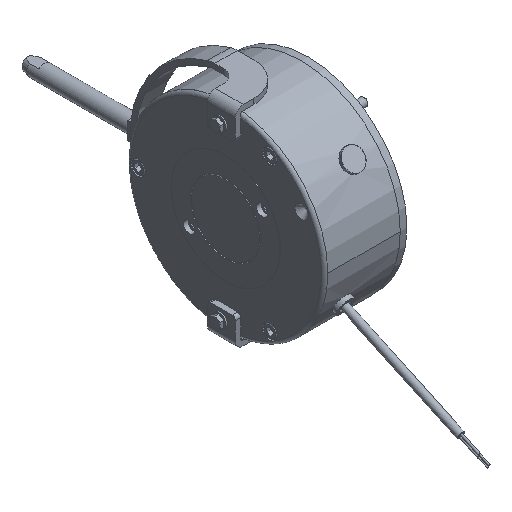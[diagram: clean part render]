
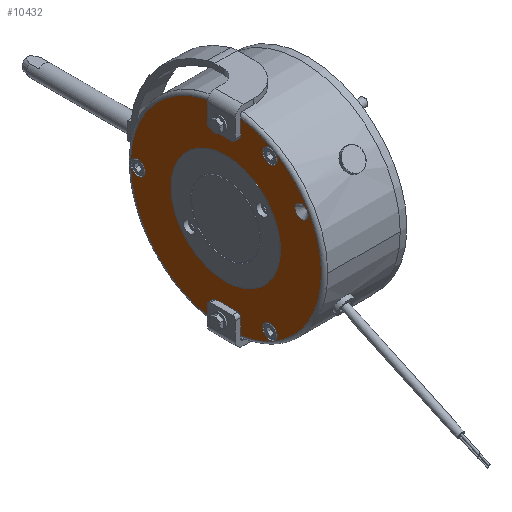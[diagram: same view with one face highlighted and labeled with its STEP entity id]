
A CAD part, isometric view. The second image highlights one B-rep face of the part: STEP entity #10432.
In plain terms, the highlighted planar face has unit normal (-1, 0, 0).
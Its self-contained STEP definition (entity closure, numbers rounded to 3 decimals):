
#731=FACE_BOUND('',#2438,.T.);
#732=FACE_BOUND('',#2439,.T.);
#733=FACE_BOUND('',#2440,.T.);
#734=FACE_BOUND('',#2441,.T.);
#735=FACE_BOUND('',#2442,.T.);
#1205=CIRCLE('',#11431,41.);
#1206=CIRCLE('',#11432,41.);
#1210=CIRCLE('',#11438,5.5);
#1211=CIRCLE('',#11439,5.5);
#1215=CIRCLE('',#11446,5.5);
#1216=CIRCLE('',#11447,5.5);
#1220=CIRCLE('',#11454,5.5);
#1221=CIRCLE('',#11455,5.5);
#1228=CIRCLE('',#11465,71.501);
#1230=CIRCLE('',#11467,71.501);
#1262=CIRCLE('',#11513,5.);
#1263=CIRCLE('',#11514,5.);
#1269=CIRCLE('',#11525,2.5);
#1270=CIRCLE('',#11526,2.5);
#1271=CIRCLE('',#11527,2.5);
#1272=CIRCLE('',#11528,2.5);
#1827=FACE_OUTER_BOUND('',#2437,.T.);
#2437=EDGE_LOOP('',(#8699,#8700,#8701,#8702,#8703,#8704,#8705,#8706,#8707,
#8708,#8709,#8710));
#2438=EDGE_LOOP('',(#8711,#8712));
#2439=EDGE_LOOP('',(#8713,#8714));
#2440=EDGE_LOOP('',(#8715,#8716));
#2441=EDGE_LOOP('',(#8717,#8718));
#2442=EDGE_LOOP('',(#8719,#8720));
#3010=LINE('',#18668,#3564);
#3011=LINE('',#18670,#3565);
#3012=LINE('',#18674,#3566);
#3013=LINE('',#18677,#3567);
#3014=LINE('',#18679,#3568);
#3015=LINE('',#18683,#3569);
#3564=VECTOR('',#14109,10.);
#3565=VECTOR('',#14110,10.);
#3566=VECTOR('',#14113,10.);
#3567=VECTOR('',#14116,10.);
#3568=VECTOR('',#14117,10.);
#3569=VECTOR('',#14120,10.);
#4542=VERTEX_POINT('',#18415);
#4543=VERTEX_POINT('',#18416);
#4547=VERTEX_POINT('',#18429);
#4548=VERTEX_POINT('',#18430);
#4552=VERTEX_POINT('',#18444);
#4553=VERTEX_POINT('',#18445);
#4557=VERTEX_POINT('',#18459);
#4558=VERTEX_POINT('',#18460);
#4562=VERTEX_POINT('',#18494);
#4563=VERTEX_POINT('',#18496);
#4564=VERTEX_POINT('',#18498);
#4565=VERTEX_POINT('',#18500);
#4602=VERTEX_POINT('',#18642);
#4603=VERTEX_POINT('',#18643);
#4610=VERTEX_POINT('',#18667);
#4611=VERTEX_POINT('',#18669);
#4612=VERTEX_POINT('',#18671);
#4613=VERTEX_POINT('',#18673);
#4614=VERTEX_POINT('',#18675);
#4615=VERTEX_POINT('',#18678);
#4616=VERTEX_POINT('',#18680);
#4617=VERTEX_POINT('',#18682);
#5923=EDGE_CURVE('',#4542,#4543,#1205,.T.);
#5924=EDGE_CURVE('',#4543,#4542,#1206,.T.);
#5930=EDGE_CURVE('',#4547,#4548,#1210,.T.);
#5931=EDGE_CURVE('',#4548,#4547,#1211,.T.);
#5937=EDGE_CURVE('',#4552,#4553,#1215,.T.);
#5938=EDGE_CURVE('',#4553,#4552,#1216,.T.);
#5944=EDGE_CURVE('',#4557,#4558,#1220,.T.);
#5945=EDGE_CURVE('',#4558,#4557,#1221,.T.);
#5954=EDGE_CURVE('',#4562,#4563,#1228,.T.);
#5956=EDGE_CURVE('',#4564,#4565,#1230,.T.);
#6005=EDGE_CURVE('',#4602,#4603,#1262,.T.);
#6006=EDGE_CURVE('',#4603,#4602,#1263,.T.);
#6017=EDGE_CURVE('',#4610,#4565,#3010,.T.);
#6018=EDGE_CURVE('',#4564,#4611,#3011,.T.);
#6019=EDGE_CURVE('',#4611,#4612,#1269,.T.);
#6020=EDGE_CURVE('',#4612,#4613,#3012,.T.);
#6021=EDGE_CURVE('',#4613,#4614,#1270,.T.);
#6022=EDGE_CURVE('',#4614,#4563,#3013,.T.);
#6023=EDGE_CURVE('',#4562,#4615,#3014,.T.);
#6024=EDGE_CURVE('',#4615,#4616,#1271,.T.);
#6025=EDGE_CURVE('',#4616,#4617,#3015,.T.);
#6026=EDGE_CURVE('',#4617,#4610,#1272,.T.);
#8699=ORIENTED_EDGE('',*,*,#6017,.T.);
#8700=ORIENTED_EDGE('',*,*,#5956,.F.);
#8701=ORIENTED_EDGE('',*,*,#6018,.T.);
#8702=ORIENTED_EDGE('',*,*,#6019,.T.);
#8703=ORIENTED_EDGE('',*,*,#6020,.T.);
#8704=ORIENTED_EDGE('',*,*,#6021,.T.);
#8705=ORIENTED_EDGE('',*,*,#6022,.T.);
#8706=ORIENTED_EDGE('',*,*,#5954,.F.);
#8707=ORIENTED_EDGE('',*,*,#6023,.T.);
#8708=ORIENTED_EDGE('',*,*,#6024,.T.);
#8709=ORIENTED_EDGE('',*,*,#6025,.T.);
#8710=ORIENTED_EDGE('',*,*,#6026,.T.);
#8711=ORIENTED_EDGE('',*,*,#6005,.T.);
#8712=ORIENTED_EDGE('',*,*,#6006,.T.);
#8713=ORIENTED_EDGE('',*,*,#5923,.T.);
#8714=ORIENTED_EDGE('',*,*,#5924,.T.);
#8715=ORIENTED_EDGE('',*,*,#5930,.T.);
#8716=ORIENTED_EDGE('',*,*,#5931,.T.);
#8717=ORIENTED_EDGE('',*,*,#5937,.T.);
#8718=ORIENTED_EDGE('',*,*,#5938,.T.);
#8719=ORIENTED_EDGE('',*,*,#5944,.T.);
#8720=ORIENTED_EDGE('',*,*,#5945,.T.);
#9373=PLANE('',#11524);
#10432=ADVANCED_FACE('',(#1827,#731,#732,#733,#734,#735),#9373,.T.);
#11431=AXIS2_PLACEMENT_3D('',#18417,#13897,#13898);
#11432=AXIS2_PLACEMENT_3D('',#18418,#13899,#13900);
#11438=AXIS2_PLACEMENT_3D('',#18431,#13913,#13914);
#11439=AXIS2_PLACEMENT_3D('',#18432,#13915,#13916);
#11446=AXIS2_PLACEMENT_3D('',#18446,#13931,#13932);
#11447=AXIS2_PLACEMENT_3D('',#18447,#13933,#13934);
#11454=AXIS2_PLACEMENT_3D('',#18461,#13949,#13950);
#11455=AXIS2_PLACEMENT_3D('',#18462,#13951,#13952);
#11465=AXIS2_PLACEMENT_3D('',#18497,#13972,#13973);
#11467=AXIS2_PLACEMENT_3D('',#18501,#13976,#13977);
#11513=AXIS2_PLACEMENT_3D('',#18644,#14080,#14081);
#11514=AXIS2_PLACEMENT_3D('',#18645,#14082,#14083);
#11524=AXIS2_PLACEMENT_3D('',#18666,#14107,#14108);
#11525=AXIS2_PLACEMENT_3D('',#18672,#14111,#14112);
#11526=AXIS2_PLACEMENT_3D('',#18676,#14114,#14115);
#11527=AXIS2_PLACEMENT_3D('',#18681,#14118,#14119);
#11528=AXIS2_PLACEMENT_3D('',#18684,#14121,#14122);
#13897=DIRECTION('center_axis',(1.,0.,0.));
#13898=DIRECTION('ref_axis',(0.,1.,0.));
#13899=DIRECTION('center_axis',(1.,0.,0.));
#13900=DIRECTION('ref_axis',(0.,1.,0.));
#13913=DIRECTION('center_axis',(1.,0.,0.));
#13914=DIRECTION('ref_axis',(0.,0.,1.));
#13915=DIRECTION('center_axis',(1.,0.,0.));
#13916=DIRECTION('ref_axis',(0.,0.,1.));
#13931=DIRECTION('center_axis',(1.,0.,0.));
#13932=DIRECTION('ref_axis',(0.,0.,1.));
#13933=DIRECTION('center_axis',(1.,0.,0.));
#13934=DIRECTION('ref_axis',(0.,0.,1.));
#13949=DIRECTION('center_axis',(1.,0.,0.));
#13950=DIRECTION('ref_axis',(0.,0.,1.));
#13951=DIRECTION('center_axis',(1.,0.,0.));
#13952=DIRECTION('ref_axis',(0.,0.,1.));
#13972=DIRECTION('center_axis',(1.,0.,0.));
#13973=DIRECTION('ref_axis',(0.,-1.,0.));
#13976=DIRECTION('center_axis',(1.,0.,0.));
#13977=DIRECTION('ref_axis',(0.,-1.,0.));
#14080=DIRECTION('center_axis',(1.,0.,0.));
#14081=DIRECTION('ref_axis',(0.,0.,1.));
#14082=DIRECTION('center_axis',(1.,0.,0.));
#14083=DIRECTION('ref_axis',(0.,0.,1.));
#14107=DIRECTION('center_axis',(-1.,0.,0.));
#14108=DIRECTION('ref_axis',(0.,0.,1.));
#14109=DIRECTION('',(0.,0.,1.));
#14110=DIRECTION('',(0.,0.,1.));
#14111=DIRECTION('center_axis',(1.,0.,0.));
#14112=DIRECTION('ref_axis',(0.,0.707,0.707));
#14113=DIRECTION('',(0.,-1.,0.));
#14114=DIRECTION('center_axis',(1.,0.,0.));
#14115=DIRECTION('ref_axis',(0.,-0.707,0.707));
#14116=DIRECTION('',(0.,0.,-1.));
#14117=DIRECTION('',(0.,0.,-1.));
#14118=DIRECTION('center_axis',(1.,0.,0.));
#14119=DIRECTION('ref_axis',(0.,-0.707,-0.707));
#14120=DIRECTION('',(0.,1.,0.));
#14121=DIRECTION('center_axis',(1.,0.,0.));
#14122=DIRECTION('ref_axis',(0.,0.707,-0.707));
#18415=CARTESIAN_POINT('',(-56.9,41.,0.));
#18416=CARTESIAN_POINT('',(-56.9,-41.,0.));
#18417=CARTESIAN_POINT('Origin',(-56.9,0.,0.));
#18418=CARTESIAN_POINT('Origin',(-56.9,0.,0.));
#18429=CARTESIAN_POINT('',(-56.9,66.,5.5));
#18430=CARTESIAN_POINT('',(-56.9,66.,-5.5));
#18431=CARTESIAN_POINT('Origin',(-56.9,66.,0.));
#18432=CARTESIAN_POINT('Origin',(-56.9,66.,0.));
#18444=CARTESIAN_POINT('',(-56.9,-33.,-51.658));
#18445=CARTESIAN_POINT('',(-56.9,-33.,-62.658));
#18446=CARTESIAN_POINT('Origin',(-56.9,-33.,-57.158));
#18447=CARTESIAN_POINT('Origin',(-56.9,-33.,-57.158));
#18459=CARTESIAN_POINT('',(-56.9,-33.,62.658));
#18460=CARTESIAN_POINT('',(-56.9,-33.,51.658));
#18461=CARTESIAN_POINT('Origin',(-56.9,-33.,57.158));
#18462=CARTESIAN_POINT('Origin',(-56.9,-33.,57.158));
#18494=CARTESIAN_POINT('',(-56.9,-11.,70.65));
#18496=CARTESIAN_POINT('',(-56.9,-11.,-70.65));
#18497=CARTESIAN_POINT('Origin',(-56.9,0.,0.));
#18498=CARTESIAN_POINT('',(-56.9,10.,-70.798));
#18500=CARTESIAN_POINT('',(-56.9,10.,70.798));
#18501=CARTESIAN_POINT('Origin',(-56.9,0.,0.));
#18642=CARTESIAN_POINT('',(-56.9,-56.811,37.8));
#18643=CARTESIAN_POINT('',(-56.9,-56.811,27.8));
#18644=CARTESIAN_POINT('Origin',(-56.9,-56.811,32.8));
#18645=CARTESIAN_POINT('Origin',(-56.9,-56.811,32.8));
#18666=CARTESIAN_POINT('Origin',(-56.9,57.5,0.));
#18667=CARTESIAN_POINT('',(-56.9,10.,59.));
#18668=CARTESIAN_POINT('',(-56.9,10.,37.25));
#18669=CARTESIAN_POINT('',(-56.9,10.,-59.));
#18670=CARTESIAN_POINT('',(-56.9,10.,-39.25));
#18671=CARTESIAN_POINT('',(-56.9,7.5,-56.5));
#18672=CARTESIAN_POINT('Origin',(-56.9,7.5,-59.));
#18673=CARTESIAN_POINT('',(-56.9,-8.5,-56.5));
#18674=CARTESIAN_POINT('',(-56.9,33.75,-56.5));
#18675=CARTESIAN_POINT('',(-56.9,-11.,-59.));
#18676=CARTESIAN_POINT('Origin',(-56.9,-8.5,-59.));
#18677=CARTESIAN_POINT('',(-56.9,-11.,-37.25));
#18678=CARTESIAN_POINT('',(-56.9,-11.,59.));
#18679=CARTESIAN_POINT('',(-56.9,-11.,39.25));
#18680=CARTESIAN_POINT('',(-56.9,-8.5,56.5));
#18681=CARTESIAN_POINT('Origin',(-56.9,-8.5,59.));
#18682=CARTESIAN_POINT('',(-56.9,7.5,56.5));
#18683=CARTESIAN_POINT('',(-56.9,23.25,56.5));
#18684=CARTESIAN_POINT('Origin',(-56.9,7.5,59.));
